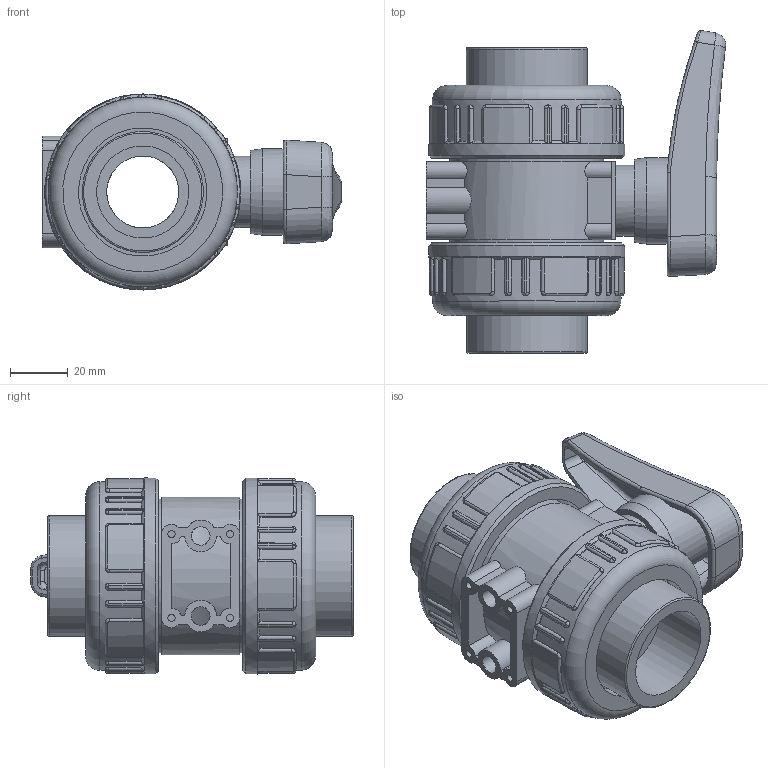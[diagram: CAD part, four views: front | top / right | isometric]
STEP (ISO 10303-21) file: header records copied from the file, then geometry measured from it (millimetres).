
FILE_DESCRIPTION(/* description */ (''),/* implementation_level */ '2;1');
FILE_NAME(/* name */ 'C:\Users\POLYPIPE\Desktop\DATASET INVENTOR\LIBRERIA EFFAST\3D_VALVOLE\3D_VALVOLE A SFERA\3D_BK1\3D_BHPBK1H\3D_BHPBK1H0320.stp',/* time_stamp */ '2018-01-25T16:16:38+01:00',/* author */ ('POLYPIPE'),/* organization */ (''),/* preprocessor_version */ 'ST-DEVELOPER v16.1',/* originating_system */ 'Autodesk Inventor 2016',/* authorisation */ '');
FILE_SCHEMA (('CONFIG_CONTROL_DESIGN'));
Length unit declared in the file: centimetre
Products named in the file (1): 3D_BHPBK1H0320
Bounding box: 103.87 x 111.96 x 68 mm (x, y, z)
Volume: 233456.7 mm3; surface area: 76101 mm2
Topology: 3 solids, 3 shells, 575 faces, 1475 edges, 933 vertices
Faces by surface type: plane 200, cylinder 192, bspline 162, torus 16, cone 5
Full cylindrical faces by diameter (mm): 2.5 x8, 4 x4, 6.5 x2, 15.8 x1, 24.7 x1, 25 x3, 30 x1, 32 x2, 42 x2, 44.5 x2, 51 x2, 53.3 x2, 54.7 x1, 56.7 x2, 65.5 x2, 68 x2
Entity records: 62398 total; most frequent: CARTESIAN_POINT 48848, ORIENTED_EDGE 2824, DIRECTION 2410, EDGE_CURVE 1412, AXIS2_PLACEMENT_3D 922, VERTEX_POINT 917, EDGE_LOOP 657, STYLED_ITEM 578
